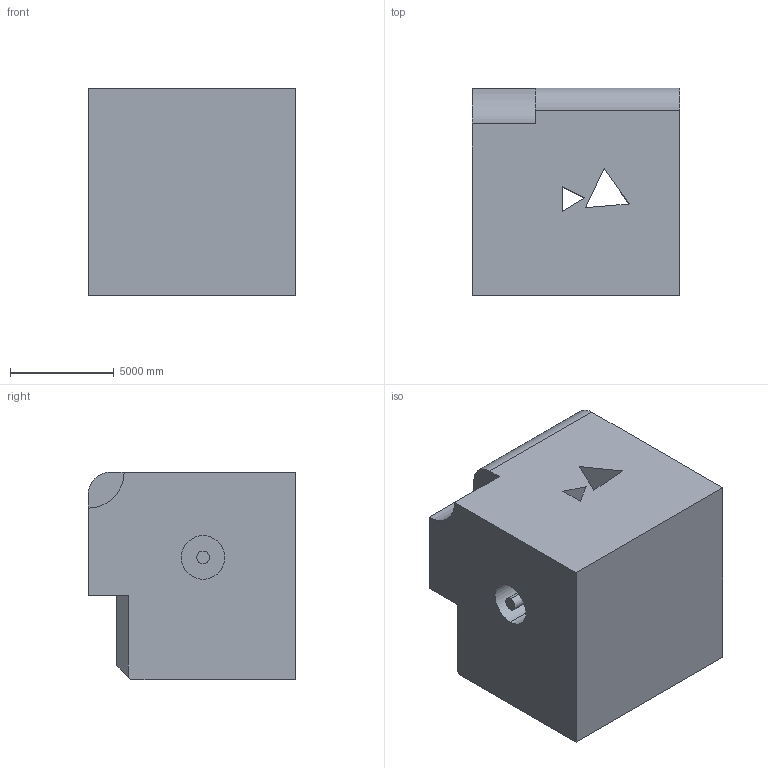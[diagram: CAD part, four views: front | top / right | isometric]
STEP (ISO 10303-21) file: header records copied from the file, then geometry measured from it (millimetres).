
FILE_DESCRIPTION (( 'STEP AP203' ), '1' );
FILE_NAME ('1771.STEP', '2022-08-19T12:45:17', ( 'user' ), ( '' ), 'SwSTEP 2.0', 'SolidWorks 2021', '' );
FILE_SCHEMA (( 'CONFIG_CONTROL_DESIGN' ));
Length unit declared in the file: centimetre
Products named in the file (1): 1771
Bounding box: 10000 x 10000 x 10000 mm (x, y, z)
Volume: 883904177921.9 mm3; surface area: 710819460.1 mm2
Topology: 1 solids, 1 shells, 29 faces, 72 edges, 48 vertices
Faces by surface type: plane 23, cylinder 6
Entity records: 943 total; most frequent: CARTESIAN_POINT 150, DIRECTION 144, ORIENTED_EDGE 144, EDGE_CURVE 72, LINE 60, VECTOR 60, VERTEX_POINT 48, AXIS2_PLACEMENT_3D 42
